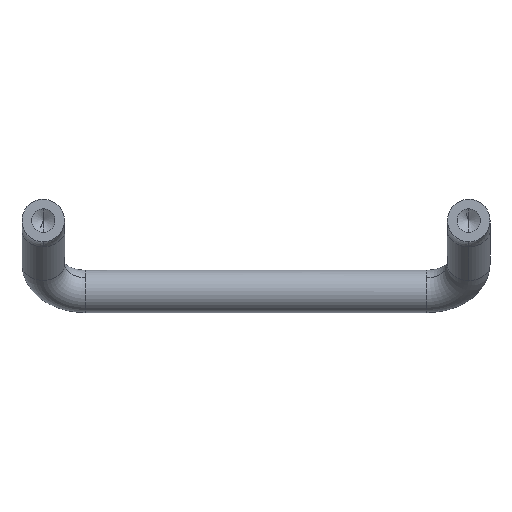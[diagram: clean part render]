
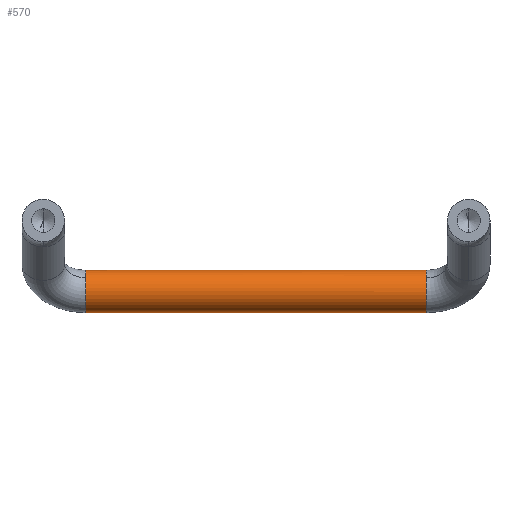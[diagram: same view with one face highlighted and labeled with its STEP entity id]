
A CAD part, front view. The second image highlights one B-rep face of the part: STEP entity #570.
In plain terms, the highlighted cylindrical face has radius 3 mm (diameter 6 mm), a partial arc.
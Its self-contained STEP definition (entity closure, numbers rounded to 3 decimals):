
#3 = VECTOR ( 'NONE', #829, 1000. ) ;
#16 = DIRECTION ( 'NONE',  ( 0., 0.64, 0.768 ) ) ;
#33 = ORIENTED_EDGE ( 'NONE', *, *, #416, .F. ) ;
#38 = CARTESIAN_POINT ( 'NONE',  ( -6., 27., -7. ) ) ;
#44 = DIRECTION ( 'NONE',  ( 0., 0.64, 0.768 ) ) ;
#46 = LINE ( 'NONE', #332, #3 ) ;
#62 = VERTEX_POINT ( 'NONE', #361 ) ;
#64 = ORIENTED_EDGE ( 'NONE', *, *, #254, .T. ) ;
#77 = CARTESIAN_POINT ( 'NONE',  ( -54., 27., -10. ) ) ;
#90 = LINE ( 'NONE', #38, #550 ) ;
#124 = CARTESIAN_POINT ( 'NONE',  ( -6., 27., -7. ) ) ;
#159 = AXIS2_PLACEMENT_3D ( 'NONE', #482, #557, #833 ) ;
#192 = DIRECTION ( 'NONE',  ( -1., 0., 0. ) ) ;
#251 = CIRCLE ( 'NONE', #490, 3. ) ;
#254 = EDGE_CURVE ( 'NONE', #836, #834, #563, .T. ) ;
#287 = VERTEX_POINT ( 'NONE', #761 ) ;
#306 = EDGE_CURVE ( 'NONE', #62, #736, #594, .T. ) ;
#321 = DIRECTION ( 'NONE',  ( -1., 0., 0. ) ) ;
#329 = AXIS2_PLACEMENT_3D ( 'NONE', #459, #321, #668 ) ;
#332 = CARTESIAN_POINT ( 'NONE',  ( -6., 27., -13. ) ) ;
#361 = CARTESIAN_POINT ( 'NONE',  ( -54., 24.699, -8.075 ) ) ;
#365 = ORIENTED_EDGE ( 'NONE', *, *, #306, .F. ) ;
#379 = CYLINDRICAL_SURFACE ( 'NONE', #329, 3. ) ;
#382 = ORIENTED_EDGE ( 'NONE', *, *, #674, .T. ) ;
#416 = EDGE_CURVE ( 'NONE', #577, #62, #251, .T. ) ;
#426 = DIRECTION ( 'NONE',  ( -1., 0., 0. ) ) ;
#432 = AXIS2_PLACEMENT_3D ( 'NONE', #868, #795, #660 ) ;
#436 = ORIENTED_EDGE ( 'NONE', *, *, #588, .T. ) ;
#459 = CARTESIAN_POINT ( 'NONE',  ( -6., 27., -10. ) ) ;
#461 = AXIS2_PLACEMENT_3D ( 'NONE', #827, #192, #44 ) ;
#482 = CARTESIAN_POINT ( 'NONE',  ( -6., 27., -10. ) ) ;
#490 = AXIS2_PLACEMENT_3D ( 'NONE', #77, #426, #16 ) ;
#494 = ORIENTED_EDGE ( 'NONE', *, *, #812, .F. ) ;
#535 = CIRCLE ( 'NONE', #432, 3. ) ;
#550 = VECTOR ( 'NONE', #819, 1000. ) ;
#557 = DIRECTION ( 'NONE',  ( -1., 0., 0. ) ) ;
#563 = CIRCLE ( 'NONE', #159, 3. ) ;
#570 = ADVANCED_FACE ( 'NONE', ( #732 ), #379, .T. ) ;
#577 = VERTEX_POINT ( 'NONE', #791 ) ;
#588 = EDGE_CURVE ( 'NONE', #287, #836, #535, .T. ) ;
#594 = CIRCLE ( 'NONE', #461, 3. ) ;
#629 = EDGE_LOOP ( 'NONE', ( #494, #436, #64, #382, #365, #33 ) ) ;
#660 = DIRECTION ( 'NONE',  ( 0., 0.64, 0.768 ) ) ;
#668 = DIRECTION ( 'NONE',  ( 0., 0., 1. ) ) ;
#674 = EDGE_CURVE ( 'NONE', #834, #736, #90, .T. ) ;
#689 = CARTESIAN_POINT ( 'NONE',  ( -6., 24.695, -8.079 ) ) ;
#732 = FACE_OUTER_BOUND ( 'NONE', #629, .T. ) ;
#736 = VERTEX_POINT ( 'NONE', #826 ) ;
#761 = CARTESIAN_POINT ( 'NONE',  ( -6., 27., -13. ) ) ;
#791 = CARTESIAN_POINT ( 'NONE',  ( -54., 27., -13. ) ) ;
#795 = DIRECTION ( 'NONE',  ( -1., 0., 0. ) ) ;
#812 = EDGE_CURVE ( 'NONE', #287, #577, #46, .T. ) ;
#819 = DIRECTION ( 'NONE',  ( -1., 0., 0. ) ) ;
#826 = CARTESIAN_POINT ( 'NONE',  ( -54., 27., -7. ) ) ;
#827 = CARTESIAN_POINT ( 'NONE',  ( -54., 27., -10. ) ) ;
#829 = DIRECTION ( 'NONE',  ( -1., 0., 0. ) ) ;
#833 = DIRECTION ( 'NONE',  ( 0., 0.64, 0.768 ) ) ;
#834 = VERTEX_POINT ( 'NONE', #124 ) ;
#836 = VERTEX_POINT ( 'NONE', #689 ) ;
#868 = CARTESIAN_POINT ( 'NONE',  ( -6., 27., -10. ) ) ;
